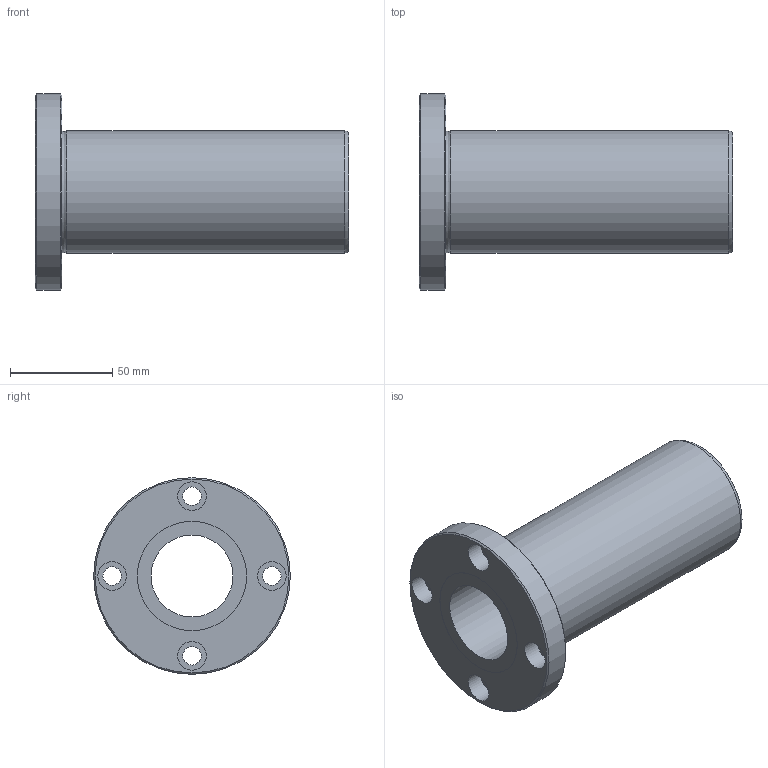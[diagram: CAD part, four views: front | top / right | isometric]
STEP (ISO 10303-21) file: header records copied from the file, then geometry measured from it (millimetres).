
FILE_DESCRIPTION((''),'2;1');
FILE_NAME('D:\製品 (図面)\カタログ用3D\リニアベアリング関連\STEP形式\LFD\LFD40.stp','2010-06-03T09:22:10',('Tsuchiya'),(''),'Autodesk Inventor 10','Autodesk Inventor 10','');
FILE_SCHEMA(('AUTOMOTIVE_DESIGN { 1 0 10303 214 1 1 1 1 }'));
Length unit declared in the file: millimetre
Products named in the file (1): LFD40
Bounding box: 153 x 96 x 96 mm (x, y, z)
Volume: 290553 mm3; surface area: 62704.4 mm2
Topology: 1 solids, 1 shells, 26 faces, 47 edges, 30 vertices
Faces by surface type: cylinder 13, plane 9, cone 2, torus 1, bspline 1
Full cylindrical faces by diameter (mm): 9 x4, 14 x4, 40 x1, 53.4 x2, 60 x1, 96 x1
Entity records: 665 total; most frequent: CARTESIAN_POINT 149, DIRECTION 112, ORIENTED_EDGE 60, EDGE_LOOP 60, AXIS2_PLACEMENT_3D 56, FACE_BOUND 34, VERTEX_POINT 30, CIRCLE 30
